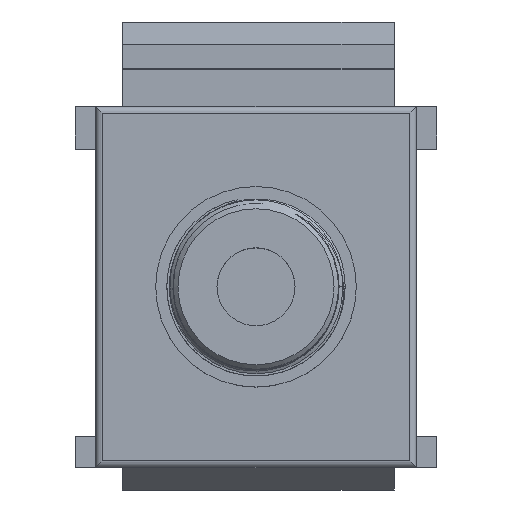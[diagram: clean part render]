
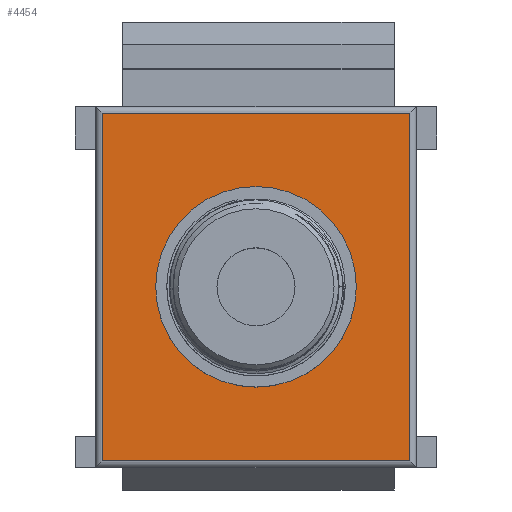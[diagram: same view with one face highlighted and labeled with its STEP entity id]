
A CAD part, top view. The second image highlights one B-rep face of the part: STEP entity #4454.
In plain terms, the highlighted planar face has unit normal (0, 0, 1) as drawn and (0, 0, -1) by its records, which use the part's own axes.
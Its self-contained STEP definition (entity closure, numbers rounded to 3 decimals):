
#4454 = ADVANCED_FACE('',(#4455,#4489),#4500,.F.);
#4455 = FACE_BOUND('',#4456,.F.);
#4456 = EDGE_LOOP('',(#4457,#4467,#4475,#4483));
#4457 = ORIENTED_EDGE('',*,*,#4458,.T.);
#4458 = EDGE_CURVE('',#4459,#4461,#4463,.T.);
#4459 = VERTEX_POINT('',#4460);
#4460 = CARTESIAN_POINT('',(-6.9,-7.8,0.));
#4461 = VERTEX_POINT('',#4462);
#4462 = CARTESIAN_POINT('',(6.9,-7.8,0.));
#4463 = LINE('',#4464,#4465);
#4464 = CARTESIAN_POINT('',(-7.2,-7.8,0.));
#4465 = VECTOR('',#4466,1.);
#4466 = DIRECTION('',(1.,0.,0.));
#4467 = ORIENTED_EDGE('',*,*,#4468,.T.);
#4468 = EDGE_CURVE('',#4461,#4469,#4471,.T.);
#4469 = VERTEX_POINT('',#4470);
#4470 = CARTESIAN_POINT('',(6.9,7.8,0.));
#4471 = LINE('',#4472,#4473);
#4472 = CARTESIAN_POINT('',(6.9,-8.1,0.));
#4473 = VECTOR('',#4474,1.);
#4474 = DIRECTION('',(0.,1.,0.));
#4475 = ORIENTED_EDGE('',*,*,#4476,.T.);
#4476 = EDGE_CURVE('',#4469,#4477,#4479,.T.);
#4477 = VERTEX_POINT('',#4478);
#4478 = CARTESIAN_POINT('',(-6.9,7.8,0.));
#4479 = LINE('',#4480,#4481);
#4480 = CARTESIAN_POINT('',(7.2,7.8,0.));
#4481 = VECTOR('',#4482,1.);
#4482 = DIRECTION('',(-1.,0.,0.));
#4483 = ORIENTED_EDGE('',*,*,#4484,.T.);
#4484 = EDGE_CURVE('',#4477,#4459,#4485,.T.);
#4485 = LINE('',#4486,#4487);
#4486 = CARTESIAN_POINT('',(-6.9,8.1,0.));
#4487 = VECTOR('',#4488,1.);
#4488 = DIRECTION('',(0.,-1.,0.));
#4489 = FACE_BOUND('',#4490,.F.);
#4490 = EDGE_LOOP('',(#4491));
#4491 = ORIENTED_EDGE('',*,*,#4492,.T.);
#4492 = EDGE_CURVE('',#4493,#4493,#4495,.T.);
#4493 = VERTEX_POINT('',#4494);
#4494 = CARTESIAN_POINT('',(4.05,0.,0.));
#4495 = CIRCLE('',#4496,4.05);
#4496 = AXIS2_PLACEMENT_3D('',#4497,#4498,#4499);
#4497 = CARTESIAN_POINT('',(0.,0.,0.));
#4498 = DIRECTION('',(0.,0.,-1.));
#4499 = DIRECTION('',(1.,0.,0.));
#4500 = PLANE('',#4501);
#4501 = AXIS2_PLACEMENT_3D('',#4502,#4503,#4504);
#4502 = CARTESIAN_POINT('',(0.,0.,0.));
#4503 = DIRECTION('',(0.,0.,1.));
#4504 = DIRECTION('',(1.,0.,-0.));
